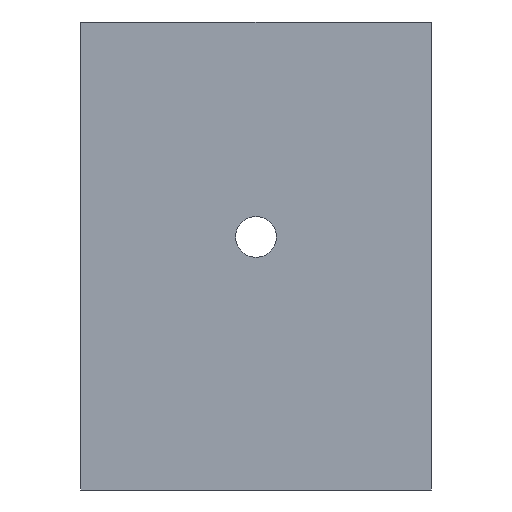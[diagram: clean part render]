
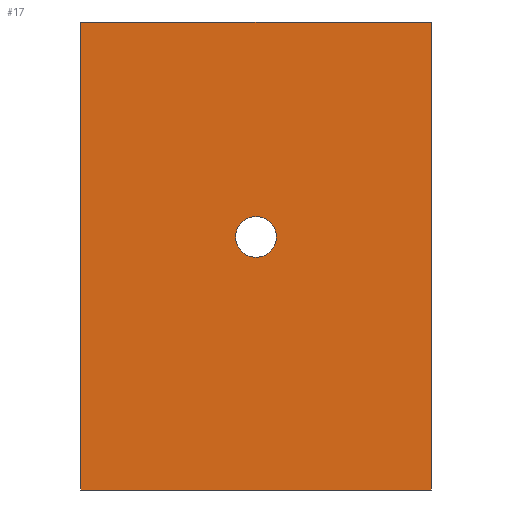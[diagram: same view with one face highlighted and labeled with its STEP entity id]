
A CAD part, left-side view. The second image highlights one B-rep face of the part: STEP entity #17.
In plain terms, the highlighted planar face has unit normal (-1, 0, 0).
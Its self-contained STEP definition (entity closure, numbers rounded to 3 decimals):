
#17 = ADVANCED_FACE('',(#18,#137),#32,.F.);
#18 = FACE_BOUND('',#19,.F.);
#19 = EDGE_LOOP('',(#20,#55,#83,#111));
#20 = ORIENTED_EDGE('',*,*,#21,.F.);
#21 = EDGE_CURVE('',#22,#24,#26,.T.);
#22 = VERTEX_POINT('',#23);
#23 = CARTESIAN_POINT('',(0.,-27.5,0.));
#24 = VERTEX_POINT('',#25);
#25 = CARTESIAN_POINT('',(0.,-27.5,73.4));
#26 = SURFACE_CURVE('',#27,(#31,#43),.PCURVE_S1.);
#27 = LINE('',#28,#29);
#28 = CARTESIAN_POINT('',(0.,-27.5,0.));
#29 = VECTOR('',#30,1.);
#30 = DIRECTION('',(0.,0.,1.));
#31 = PCURVE('',#32,#37);
#32 = PLANE('',#33);
#33 = AXIS2_PLACEMENT_3D('',#34,#35,#36);
#34 = CARTESIAN_POINT('',(0.,-27.5,0.));
#35 = DIRECTION('',(1.,0.,0.));
#36 = DIRECTION('',(0.,0.,1.));
#37 = DEFINITIONAL_REPRESENTATION('',(#38),#42);
#38 = LINE('',#39,#40);
#39 = CARTESIAN_POINT('',(0.,0.));
#40 = VECTOR('',#41,1.);
#41 = DIRECTION('',(1.,0.));
#42 = ( GEOMETRIC_REPRESENTATION_CONTEXT(2) 
PARAMETRIC_REPRESENTATION_CONTEXT() REPRESENTATION_CONTEXT('2D SPACE',''
  ) );
#43 = PCURVE('',#44,#49);
#44 = PLANE('',#45);
#45 = AXIS2_PLACEMENT_3D('',#46,#47,#48);
#46 = CARTESIAN_POINT('',(0.,-27.5,0.));
#47 = DIRECTION('',(0.,1.,0.));
#48 = DIRECTION('',(0.,0.,1.));
#49 = DEFINITIONAL_REPRESENTATION('',(#50),#54);
#50 = LINE('',#51,#52);
#51 = CARTESIAN_POINT('',(0.,0.));
#52 = VECTOR('',#53,1.);
#53 = DIRECTION('',(1.,0.));
#54 = ( GEOMETRIC_REPRESENTATION_CONTEXT(2) 
PARAMETRIC_REPRESENTATION_CONTEXT() REPRESENTATION_CONTEXT('2D SPACE',''
  ) );
#55 = ORIENTED_EDGE('',*,*,#56,.T.);
#56 = EDGE_CURVE('',#22,#57,#59,.T.);
#57 = VERTEX_POINT('',#58);
#58 = CARTESIAN_POINT('',(0.,27.5,0.));
#59 = SURFACE_CURVE('',#60,(#64,#71),.PCURVE_S1.);
#60 = LINE('',#61,#62);
#61 = CARTESIAN_POINT('',(0.,-27.5,0.));
#62 = VECTOR('',#63,1.);
#63 = DIRECTION('',(0.,1.,0.));
#64 = PCURVE('',#32,#65);
#65 = DEFINITIONAL_REPRESENTATION('',(#66),#70);
#66 = LINE('',#67,#68);
#67 = CARTESIAN_POINT('',(0.,0.));
#68 = VECTOR('',#69,1.);
#69 = DIRECTION('',(0.,-1.));
#70 = ( GEOMETRIC_REPRESENTATION_CONTEXT(2) 
PARAMETRIC_REPRESENTATION_CONTEXT() REPRESENTATION_CONTEXT('2D SPACE',''
  ) );
#71 = PCURVE('',#72,#77);
#72 = PLANE('',#73);
#73 = AXIS2_PLACEMENT_3D('',#74,#75,#76);
#74 = CARTESIAN_POINT('',(0.,-27.5,0.));
#75 = DIRECTION('',(0.,0.,1.));
#76 = DIRECTION('',(1.,0.,0.));
#77 = DEFINITIONAL_REPRESENTATION('',(#78),#82);
#78 = LINE('',#79,#80);
#79 = CARTESIAN_POINT('',(0.,0.));
#80 = VECTOR('',#81,1.);
#81 = DIRECTION('',(0.,1.));
#82 = ( GEOMETRIC_REPRESENTATION_CONTEXT(2) 
PARAMETRIC_REPRESENTATION_CONTEXT() REPRESENTATION_CONTEXT('2D SPACE',''
  ) );
#83 = ORIENTED_EDGE('',*,*,#84,.F.);
#84 = EDGE_CURVE('',#85,#57,#87,.T.);
#85 = VERTEX_POINT('',#86);
#86 = CARTESIAN_POINT('',(0.,27.5,73.4));
#87 = SURFACE_CURVE('',#88,(#92,#99),.PCURVE_S1.);
#88 = LINE('',#89,#90);
#89 = CARTESIAN_POINT('',(0.,27.5,73.4));
#90 = VECTOR('',#91,1.);
#91 = DIRECTION('',(0.,0.,-1.));
#92 = PCURVE('',#32,#93);
#93 = DEFINITIONAL_REPRESENTATION('',(#94),#98);
#94 = LINE('',#95,#96);
#95 = CARTESIAN_POINT('',(73.4,-55.));
#96 = VECTOR('',#97,1.);
#97 = DIRECTION('',(-1.,0.));
#98 = ( GEOMETRIC_REPRESENTATION_CONTEXT(2) 
PARAMETRIC_REPRESENTATION_CONTEXT() REPRESENTATION_CONTEXT('2D SPACE',''
  ) );
#99 = PCURVE('',#100,#105);
#100 = PLANE('',#101);
#101 = AXIS2_PLACEMENT_3D('',#102,#103,#104);
#102 = CARTESIAN_POINT('',(0.,27.5,0.));
#103 = DIRECTION('',(0.,1.,0.));
#104 = DIRECTION('',(0.,0.,1.));
#105 = DEFINITIONAL_REPRESENTATION('',(#106),#110);
#106 = LINE('',#107,#108);
#107 = CARTESIAN_POINT('',(73.4,0.));
#108 = VECTOR('',#109,1.);
#109 = DIRECTION('',(-1.,0.));
#110 = ( GEOMETRIC_REPRESENTATION_CONTEXT(2) 
PARAMETRIC_REPRESENTATION_CONTEXT() REPRESENTATION_CONTEXT('2D SPACE',''
  ) );
#111 = ORIENTED_EDGE('',*,*,#112,.F.);
#112 = EDGE_CURVE('',#24,#85,#113,.T.);
#113 = SURFACE_CURVE('',#114,(#118,#125),.PCURVE_S1.);
#114 = LINE('',#115,#116);
#115 = CARTESIAN_POINT('',(0.,-27.5,73.4));
#116 = VECTOR('',#117,1.);
#117 = DIRECTION('',(0.,1.,0.));
#118 = PCURVE('',#32,#119);
#119 = DEFINITIONAL_REPRESENTATION('',(#120),#124);
#120 = LINE('',#121,#122);
#121 = CARTESIAN_POINT('',(73.4,0.));
#122 = VECTOR('',#123,1.);
#123 = DIRECTION('',(0.,-1.));
#124 = ( GEOMETRIC_REPRESENTATION_CONTEXT(2) 
PARAMETRIC_REPRESENTATION_CONTEXT() REPRESENTATION_CONTEXT('2D SPACE',''
  ) );
#125 = PCURVE('',#126,#131);
#126 = PLANE('',#127);
#127 = AXIS2_PLACEMENT_3D('',#128,#129,#130);
#128 = CARTESIAN_POINT('',(0.,-27.5,73.4));
#129 = DIRECTION('',(0.,0.,1.));
#130 = DIRECTION('',(1.,0.,0.));
#131 = DEFINITIONAL_REPRESENTATION('',(#132),#136);
#132 = LINE('',#133,#134);
#133 = CARTESIAN_POINT('',(0.,0.));
#134 = VECTOR('',#135,1.);
#135 = DIRECTION('',(0.,1.));
#136 = ( GEOMETRIC_REPRESENTATION_CONTEXT(2) 
PARAMETRIC_REPRESENTATION_CONTEXT() REPRESENTATION_CONTEXT('2D SPACE',''
  ) );
#137 = FACE_BOUND('',#138,.F.);
#138 = EDGE_LOOP('',(#139));
#139 = ORIENTED_EDGE('',*,*,#140,.F.);
#140 = EDGE_CURVE('',#141,#141,#143,.T.);
#141 = VERTEX_POINT('',#142);
#142 = CARTESIAN_POINT('',(-0.,3.2,39.7));
#143 = SURFACE_CURVE('',#144,(#149,#156),.PCURVE_S1.);
#144 = CIRCLE('',#145,3.2);
#145 = AXIS2_PLACEMENT_3D('',#146,#147,#148);
#146 = CARTESIAN_POINT('',(0.,0.,39.7));
#147 = DIRECTION('',(1.,0.,0.));
#148 = DIRECTION('',(0.,1.,0.));
#149 = PCURVE('',#32,#150);
#150 = DEFINITIONAL_REPRESENTATION('',(#151),#155);
#151 = CIRCLE('',#152,3.2);
#152 = AXIS2_PLACEMENT_2D('',#153,#154);
#153 = CARTESIAN_POINT('',(39.7,-27.5));
#154 = DIRECTION('',(0.,-1.));
#155 = ( GEOMETRIC_REPRESENTATION_CONTEXT(2) 
PARAMETRIC_REPRESENTATION_CONTEXT() REPRESENTATION_CONTEXT('2D SPACE',''
  ) );
#156 = PCURVE('',#157,#162);
#157 = CYLINDRICAL_SURFACE('',#158,3.2);
#158 = AXIS2_PLACEMENT_3D('',#159,#160,#161);
#159 = CARTESIAN_POINT('',(0.,0.,39.7));
#160 = DIRECTION('',(1.,0.,0.));
#161 = DIRECTION('',(0.,1.,0.));
#162 = DEFINITIONAL_REPRESENTATION('',(#163),#167);
#163 = LINE('',#164,#165);
#164 = CARTESIAN_POINT('',(0.,0.));
#165 = VECTOR('',#166,1.);
#166 = DIRECTION('',(1.,0.));
#167 = ( GEOMETRIC_REPRESENTATION_CONTEXT(2) 
PARAMETRIC_REPRESENTATION_CONTEXT() REPRESENTATION_CONTEXT('2D SPACE',''
  ) );
